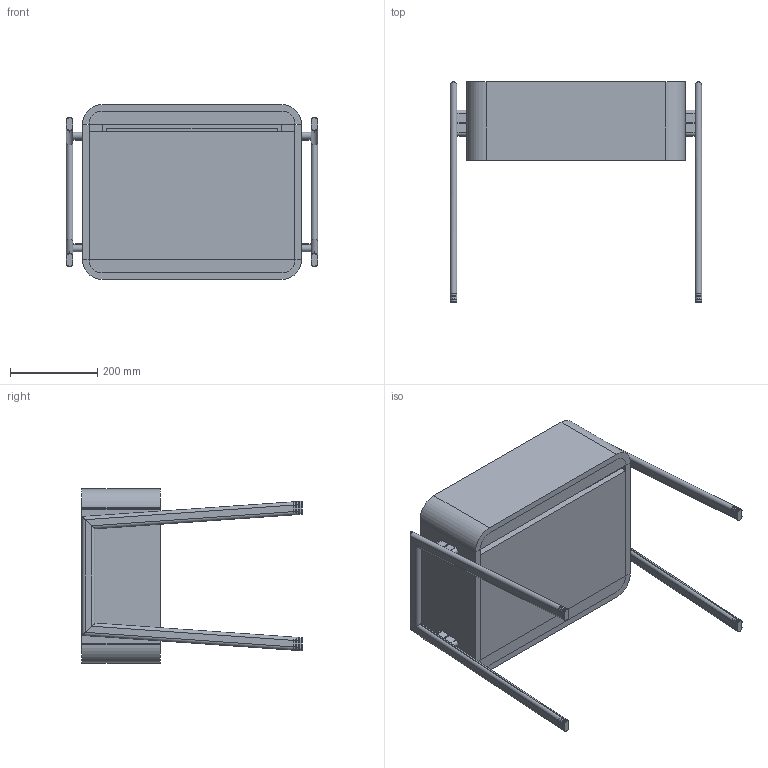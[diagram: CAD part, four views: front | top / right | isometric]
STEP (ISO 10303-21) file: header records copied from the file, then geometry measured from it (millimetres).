
FILE_DESCRIPTION (( 'STEP AP214' ), '1' );
FILE_NAME ('ASM COMODINO PARTOUT PICCOLO.STEP', '2023-11-14T12:53:31', ( '' ), ( '' ), 'SwSTEP 2.0', 'SolidWorks 2023', '' );
FILE_SCHEMA (( 'AUTOMOTIVE_DESIGN' ));
Length unit declared in the file: millimetre
Products named in the file (13): TAPPO GAMBA OVALE 30x15; COMODINO LEGNO; ASM COMODINO PARTOUT PICCOLO; Giro cassetto; Guida SX; Frontale cassetto; Struttura Est; Fondo cassetto; STRUTTURA BASE FE; Fondo; Cielo; MARMO x COMODINO; Dado a manicotto M6 coll 12
Assembly tree (16 placements, depth 3):
  ASM COMODINO PARTOUT PICCOLO
    STRUTTURA BASE FE
    COMODINO LEGNO
      Struttura Est
      Fondo
      Cielo
      Frontale cassetto
      Giro cassetto
      Fondo cassetto
      Guida SX
      MARMO x COMODINO
    Dado a manicotto M6 coll 12  x2
    TAPPO GAMBA OVALE 30x15  x4
Bounding box: 576 x 505 x 401 mm (x, y, z)
Volume: 19241234 mm3; surface area: 3266587.3 mm2
Topology: 47 solids, 47 shells, 1161 faces, 2828 edges, 1813 vertices
Faces by surface type: plane 710, cylinder 371, cone 68, torus 12
Entity records: 24686 total; most frequent: CARTESIAN_POINT 4490, DIRECTION 4132, ORIENTED_EDGE 3936, EDGE_CURVE 1968, AXIS2_PLACEMENT_3D 1432, VERTEX_POINT 1281, LINE 1268, VECTOR 1268
